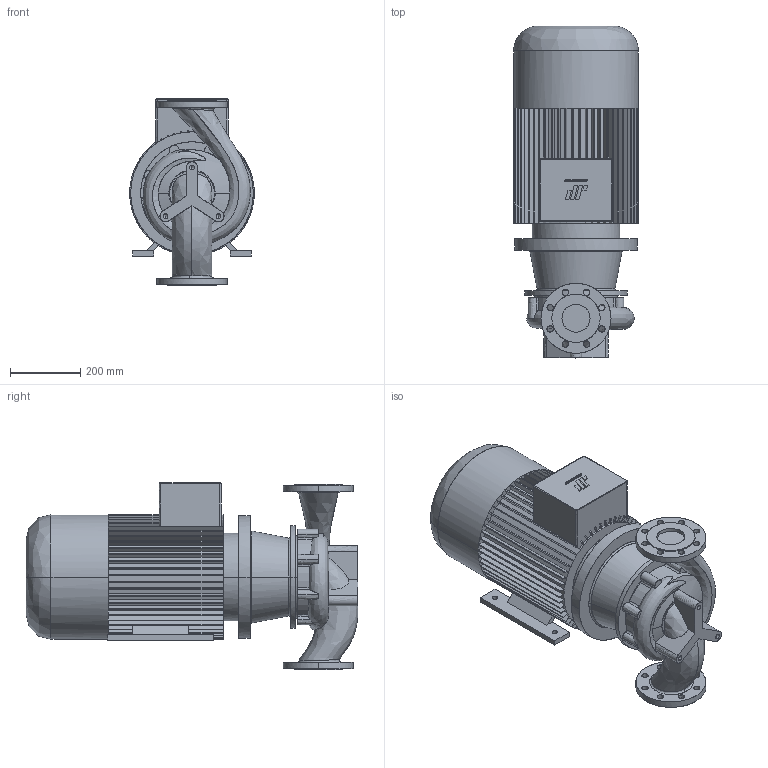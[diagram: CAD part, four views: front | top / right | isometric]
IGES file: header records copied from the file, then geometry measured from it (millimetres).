
Start section: CombiLine
Global section: file name: CLB_80-200_IEC180M_ND10.igs; native system:  By UGS Corp.; preprocessor: XPlus GENERIC/IGES 3.0; author: Stageplaats; organization: Johnson Pump Water B.V.; date: 20070717.101453; units: millimetre
Bounding box: 356 x 948 x 536 mm (x, y, z)
Surface area: 2245071.9 mm2 (no closed solid volume)
Topology: 0 solids, 0 shells, 601 faces, 3650 edges, 3644 vertices
Faces by surface type: bspline 601
